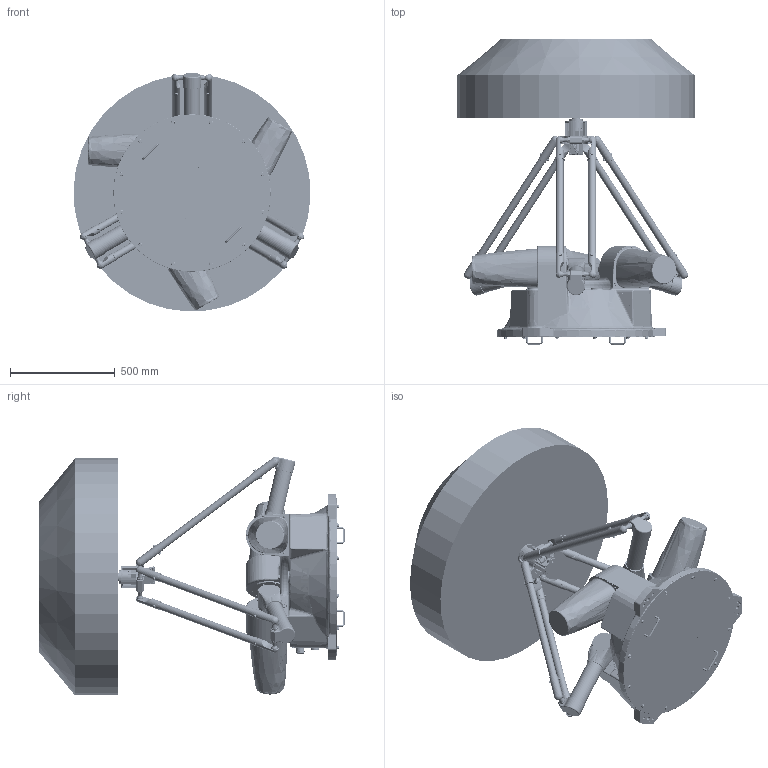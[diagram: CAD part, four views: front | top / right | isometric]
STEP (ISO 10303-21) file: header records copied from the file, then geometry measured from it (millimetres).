
FILE_DESCRIPTION (( 'STEP AP214' ), '1' );
FILE_NAME ('AP15X-1130-1544-T0-V3.0.0.STEP', '2025-01-13T02:18:17', ( '' ), ( '' ), 'SwSTEP 2.0', 'SolidWorks 2017', '' );
FILE_SCHEMA (( 'AUTOMOTIVE_DESIGN' ));
Length unit declared in the file: millimetre
Products named in the file (18): AP15X-1130-1544-T3-V1.0.0; AP15X-1130-1544-T9-V3.0.0; AP15X-1130-1544-T2-V1.0.0; AP15X-1130-1544-T10-V1.0.0; AP15X-2200-1544-T1-V1.0.1; AP15X-1130-1544-T0-V3.0.0
Assembly tree (12 placements, depth 2):
  AP15X-1130-1544-T3-V1.0.0
  AP15X-1130-1544-T3-V1.0.0
  AP15X-1130-1544-T3-V1.0.0
  AP15X-1130-1544-T2-V1.0.0
  AP15X-1130-1544-T9-V3.0.0
Bounding box: 1129.42 x 1454 x 1138.72 mm (x, y, z)
Volume: 322776066.5 mm3; surface area: 8306332.9 mm2
Topology: 45 solids, 367 shells, 7026 faces, 18978 edges, 12227 vertices
Faces by surface type: bspline 2260, plane 2251, cylinder 1633, cone 645, torus 188, sphere 49
Full cylindrical faces by diameter (mm): 2 x4, 2.1 x1, 2.5 x1, 3.3 x36, 3.5 x8, 4 x15, 4.2 x36, 4.4 x14, 4.5 x34, 4.8 x1, 5 x86, 5.3 x1, 5.5 x24, 6 x8, 6.6 x14, 6.647 x36, 6.8 x12, 7 x24, 7.3 x2, 7.5 x6, 8 x68, 8.5 x2, 9 x41, 9.3 x2, 9.51 x2, 10 x19, 11 x8, 11.7 x7, 12 x24, 12.1 x1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
Entity records: 402358 total; most frequent: CARTESIAN_POINT 202616, ORIENTED_EDGE 29220, DIRECTION 21019, EDGE_CURVE 15198, VERTEX_POINT 10406, EDGE_LOOP 7677, AXIS2_PLACEMENT_3D 7659, FACE_OUTER_BOUND 6754
